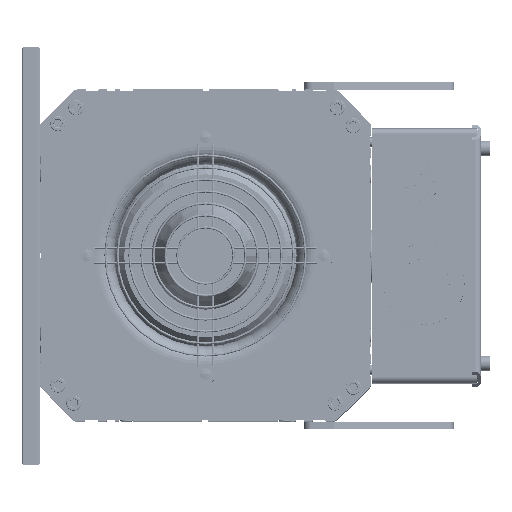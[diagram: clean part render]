
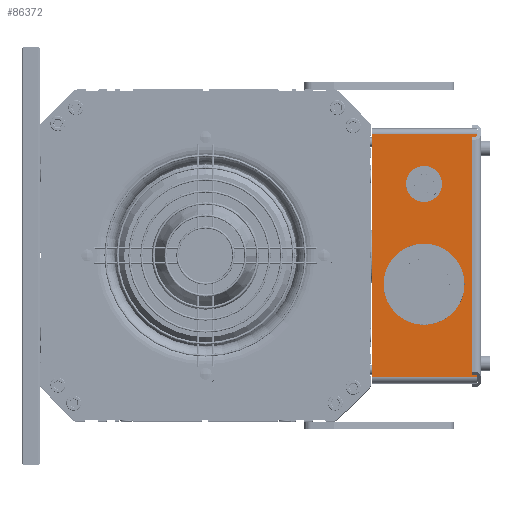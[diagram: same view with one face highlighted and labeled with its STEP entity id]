
A CAD part, top view. The second image highlights one B-rep face of the part: STEP entity #86372.
In plain terms, the highlighted planar face has unit normal (0, 0, 1) as drawn and (1, 0, 0) by its records, which use the part's own axes.
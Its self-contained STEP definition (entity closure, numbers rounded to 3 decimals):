
#83766=DIRECTION('',(0.,1.,0.));
#83767=VECTOR('',#83766,162.);
#83768=CARTESIAN_POINT('',(80.,-81.,0.));
#83769=LINE('',#83768,#83767);
#83851=DIRECTION('',(0.,0.,-1.));
#83852=VECTOR('',#83851,70.);
#83853=CARTESIAN_POINT('',(80.,-81.,70.));
#83854=LINE('',#83853,#83852);
#84371=DIRECTION('',(0.,0.,1.));
#84372=VECTOR('',#84371,70.);
#84373=CARTESIAN_POINT('',(80.,81.,0.));
#84374=LINE('',#84373,#84372);
#84379=CARTESIAN_POINT('',(80.,-48.,35.));
#84380=DIRECTION('',(1.,0.,0.));
#84381=DIRECTION('',(0.,0.,1.));
#84382=AXIS2_PLACEMENT_3D('',#84379,#84380,#84381);
#84384=CARTESIAN_POINT('',(80.,-48.,35.));
#84385=DIRECTION('',(1.,0.,0.));
#84386=DIRECTION('',(0.,0.,-1.));
#84387=AXIS2_PLACEMENT_3D('',#84384,#84385,#84386);
#84389=CARTESIAN_POINT('',(80.,19.,35.));
#84390=DIRECTION('',(1.,0.,0.));
#84391=DIRECTION('',(0.,0.,1.));
#84392=AXIS2_PLACEMENT_3D('',#84389,#84390,#84391);
#84394=CARTESIAN_POINT('',(80.,19.,35.));
#84395=DIRECTION('',(1.,0.,0.));
#84396=DIRECTION('',(0.,0.,-1.));
#84397=AXIS2_PLACEMENT_3D('',#84394,#84395,#84396);
#84399=DIRECTION('',(0.,1.,0.));
#84400=VECTOR('',#84399,162.);
#84401=CARTESIAN_POINT('',(80.,-81.,70.));
#84402=LINE('',#84401,#84400);
#85321=CARTESIAN_POINT('',(80.,-48.,43.));
#85322=CARTESIAN_POINT('',(80.,-48.,27.));
#85323=VERTEX_POINT('',#85321);
#85324=VERTEX_POINT('',#85322);
#85325=CARTESIAN_POINT('',(80.,19.,55.75));
#85326=CARTESIAN_POINT('',(80.,19.,14.25));
#85327=VERTEX_POINT('',#85325);
#85328=VERTEX_POINT('',#85326);
#85593=CARTESIAN_POINT('',(80.,-81.,0.));
#85595=VERTEX_POINT('',#85593);
#85606=CARTESIAN_POINT('',(80.,81.,0.));
#85608=VERTEX_POINT('',#85606);
#85625=CARTESIAN_POINT('',(80.,81.,70.));
#85627=VERTEX_POINT('',#85625);
#85638=CARTESIAN_POINT('',(80.,-81.,70.));
#85640=VERTEX_POINT('',#85638);
#86349=CARTESIAN_POINT('',(80.,-85.,0.));
#86350=DIRECTION('',(1.,0.,0.));
#86351=DIRECTION('',(0.,1.,0.));
#86352=AXIS2_PLACEMENT_3D('',#86349,#86350,#86351);
#86353=PLANE('',#86352);
#86354=ORIENTED_EDGE('',*,*,#86340,.F.);
#86355=ORIENTED_EDGE('',*,*,#85648,.F.);
#86356=ORIENTED_EDGE('',*,*,#85704,.F.);
#86357=ORIENTED_EDGE('',*,*,#86266,.T.);
#86358=EDGE_LOOP('',(#86354,#86355,#86356,#86357));
#86359=FACE_OUTER_BOUND('',#86358,.F.);
#86361=ORIENTED_EDGE('',*,*,#86360,.T.);
#86363=ORIENTED_EDGE('',*,*,#86362,.T.);
#86364=EDGE_LOOP('',(#86361,#86363));
#86365=FACE_BOUND('',#86364,.F.);
#86367=ORIENTED_EDGE('',*,*,#86366,.T.);
#86369=ORIENTED_EDGE('',*,*,#86368,.T.);
#86370=EDGE_LOOP('',(#86367,#86369));
#86371=FACE_BOUND('',#86370,.F.);
#86372=ADVANCED_FACE('',(#86359,#86365,#86371),#86353,.T.);
#84383=CIRCLE('',#84382,8.);
#84388=CIRCLE('',#84387,8.);
#84393=CIRCLE('',#84392,20.75);
#84398=CIRCLE('',#84397,20.75);
#85648=EDGE_CURVE('',#85595,#85608,#83769,.T.);
#85704=EDGE_CURVE('',#85640,#85595,#83854,.T.);
#86266=EDGE_CURVE('',#85640,#85627,#84402,.T.);
#86340=EDGE_CURVE('',#85608,#85627,#84374,.T.);
#86360=EDGE_CURVE('',#85327,#85328,#84393,.T.);
#86362=EDGE_CURVE('',#85328,#85327,#84398,.T.);
#86366=EDGE_CURVE('',#85323,#85324,#84383,.T.);
#86368=EDGE_CURVE('',#85324,#85323,#84388,.T.);
